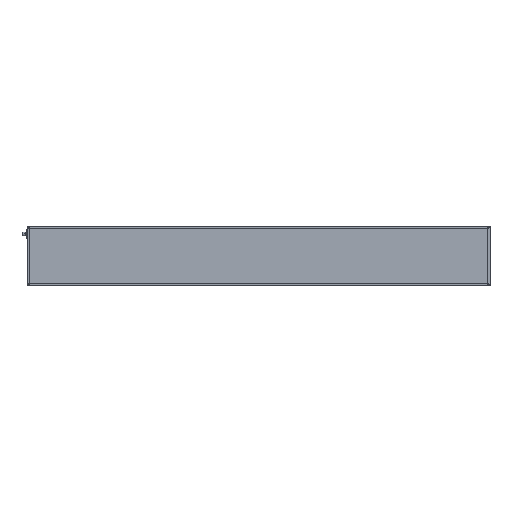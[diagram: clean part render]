
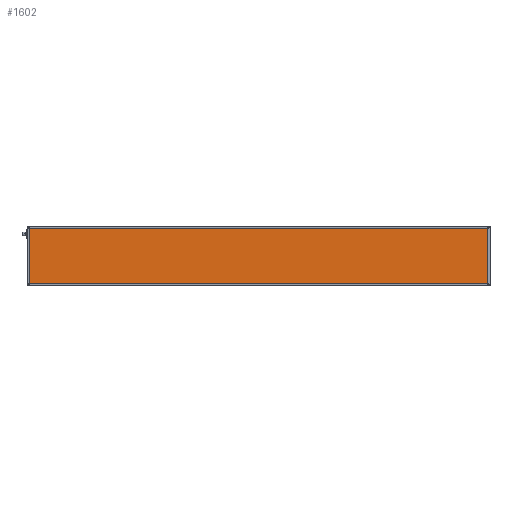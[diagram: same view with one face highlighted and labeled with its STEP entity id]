
A CAD part, top view. The second image highlights one B-rep face of the part: STEP entity #1602.
In plain terms, the highlighted planar face has unit normal (0, 0, 1).
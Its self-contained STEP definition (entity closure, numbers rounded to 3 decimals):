
#473 = VERTEX_POINT ( 'NONE', #9472 ) ;
#756 = CARTESIAN_POINT ( 'NONE',  ( 0., 196., 41.85 ) ) ;
#1110 = CARTESIAN_POINT ( 'NONE',  ( 1596., 4., 41.85 ) ) ;
#1570 = DIRECTION ( 'NONE',  ( 0., 0., -1. ) ) ;
#1602 = ADVANCED_FACE ( 'NONE', ( #9409 ), #13410, .F. ) ;
#2635 = EDGE_CURVE ( 'NONE', #2707, #10286, #9252, .T. ) ;
#2707 = VERTEX_POINT ( 'NONE', #12220 ) ;
#4493 = CARTESIAN_POINT ( 'NONE',  ( 4., 0., 41.85 ) ) ;
#4545 = ORIENTED_EDGE ( 'NONE', *, *, #7449, .T. ) ;
#5752 = ORIENTED_EDGE ( 'NONE', *, *, #10968, .T. ) ;
#6647 = CARTESIAN_POINT ( 'NONE',  ( 0., 4., 41.85 ) ) ;
#6890 = DIRECTION ( 'NONE',  ( -1., 0., 0. ) ) ;
#7217 = CARTESIAN_POINT ( 'NONE',  ( 1596., 0., 41.85 ) ) ;
#7383 = EDGE_LOOP ( 'NONE', ( #4545, #5752, #14295, #10255 ) ) ;
#7449 = EDGE_CURVE ( 'NONE', #10286, #473, #12450, .T. ) ;
#8612 = DIRECTION ( 'NONE',  ( 0., 1., 0. ) ) ;
#8800 = EDGE_CURVE ( 'NONE', #13924, #2707, #12331, .T. ) ;
#9252 = LINE ( 'NONE', #6647, #9614 ) ;
#9322 = CARTESIAN_POINT ( 'NONE',  ( 0., 0., 41.85 ) ) ;
#9409 = FACE_OUTER_BOUND ( 'NONE', #7383, .T. ) ;
#9472 = CARTESIAN_POINT ( 'NONE',  ( 1596., 196., 41.85 ) ) ;
#9559 = VECTOR ( 'NONE', #8612, 1000. ) ;
#9614 = VECTOR ( 'NONE', #14478, 1000. ) ;
#9909 = CARTESIAN_POINT ( 'NONE',  ( 4., 196., 41.85 ) ) ;
#10255 = ORIENTED_EDGE ( 'NONE', *, *, #2635, .T. ) ;
#10286 = VERTEX_POINT ( 'NONE', #1110 ) ;
#10968 = EDGE_CURVE ( 'NONE', #473, #13924, #16781, .T. ) ;
#11740 = VECTOR ( 'NONE', #12602, 1000. ) ;
#12220 = CARTESIAN_POINT ( 'NONE',  ( 4., 4., 41.85 ) ) ;
#12331 = LINE ( 'NONE', #4493, #16548 ) ;
#12450 = LINE ( 'NONE', #7217, #9559 ) ;
#12602 = DIRECTION ( 'NONE',  ( -1., 0., 0. ) ) ;
#13410 = PLANE ( 'NONE',  #16648 ) ;
#13924 = VERTEX_POINT ( 'NONE', #9909 ) ;
#14295 = ORIENTED_EDGE ( 'NONE', *, *, #8800, .T. ) ;
#14478 = DIRECTION ( 'NONE',  ( 1., 0., 0. ) ) ;
#15282 = DIRECTION ( 'NONE',  ( 0., -1., 0. ) ) ;
#16548 = VECTOR ( 'NONE', #15282, 1000. ) ;
#16648 = AXIS2_PLACEMENT_3D ( 'NONE', #9322, #1570, #6890 ) ;
#16781 = LINE ( 'NONE', #756, #11740 ) ;
